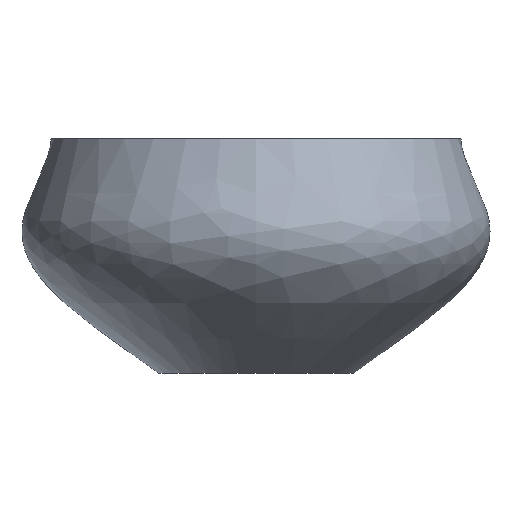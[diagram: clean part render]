
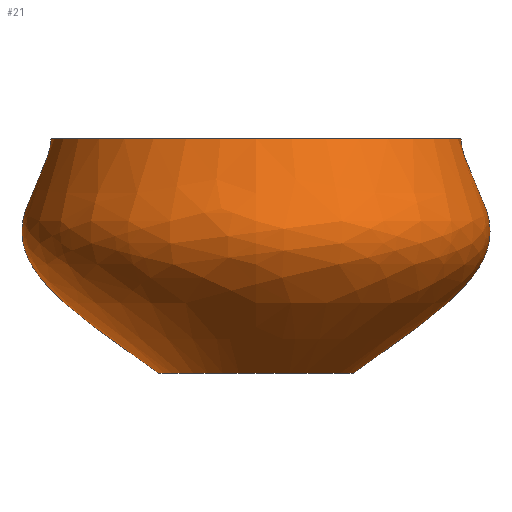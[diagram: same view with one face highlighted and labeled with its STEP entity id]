
A CAD part, front view. The second image highlights one B-rep face of the part: STEP entity #21.
In plain terms, the highlighted free-form (B-spline) face has degree [3, 2] with [5, 5] control points.
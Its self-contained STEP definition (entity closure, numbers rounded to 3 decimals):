
#21=ADVANCED_FACE('',(#28),#107,.T.);
#28=FACE_OUTER_BOUND('',#36,.T.);
#36=EDGE_LOOP('',(#57,#58,#59,#60));
#57=ORIENTED_EDGE('',*,*,#70,.T.);
#58=ORIENTED_EDGE('',*,*,#69,.F.);
#59=ORIENTED_EDGE('',*,*,#68,.F.);
#60=ORIENTED_EDGE('',*,*,#71,.F.);
#68=EDGE_CURVE('',#97,#98,#73,.T.);
#69=EDGE_CURVE('',#98,#100,#82,.T.);
#70=EDGE_CURVE('',#99,#100,#74,.T.);
#71=EDGE_CURVE('',#99,#97,#83,.T.);
#73=B_SPLINE_CURVE_WITH_KNOTS('',3,(#3995,#3996,#3997,#3998,#3999),
 .UNSPECIFIED.,.F.,.F.,(4,1,4),(0.,45.541,149.604),
 .UNSPECIFIED.);
#74=B_SPLINE_CURVE_WITH_KNOTS('',3,(#4003,#4004,#4005,#4006,#4007),
 .UNSPECIFIED.,.F.,.F.,(4,1,4),(0.,45.541,149.604),
 .UNSPECIFIED.);
#82=TRIMMED_CURVE($,#90,(#4001),(#4002),.T.,.CARTESIAN.);
#83=TRIMMED_CURVE($,#91,(#4009),(#4010),.T.,.CARTESIAN.);
#90=CIRCLE('',#204,50.);
#91=CIRCLE('',#205,105.);
#97=VERTEX_POINT('',#3877);
#98=VERTEX_POINT('',#3878);
#99=VERTEX_POINT('',#3879);
#100=VERTEX_POINT('',#3880);
#107=(
BOUNDED_SURFACE()
B_SPLINE_SURFACE(3,2,((#3848,#3849,#3850,#3851,#3852),(#3853,#3854,#3855,
#3856,#3857),(#3858,#3859,#3860,#3861,#3862),(#3863,#3864,#3865,#3866,#3867),
(#3868,#3869,#3870,#3871,#3872)),.UNSPECIFIED.,.F.,.F.,.F.)
B_SPLINE_SURFACE_WITH_KNOTS((4,1,4),(3,2,3),(0.,45.541,149.604),
(376.577,564.866,753.155),.UNSPECIFIED.)
GEOMETRIC_REPRESENTATION_ITEM()
RATIONAL_B_SPLINE_SURFACE(((1.,0.707,1.,0.707,1.),
(1.,0.707,1.,0.707,1.),(1.,0.707,1.,
0.707,1.),(1.,0.707,1.,0.707,1.),(1.,
0.707,1.,0.707,1.)))
REPRESENTATION_ITEM('')
SURFACE()
);
#204=AXIS2_PLACEMENT_3D($,#4000,#223,#224);
#205=AXIS2_PLACEMENT_3D($,#4008,#225,#226);
#223=DIRECTION('',(0.,0.,-1.));
#224=DIRECTION('',(1.,0.,0.));
#225=DIRECTION('',(0.,0.,1.));
#226=DIRECTION('',(-1.,0.,0.));
#3848=CARTESIAN_POINT('',(416.751,0.,120.));
#3849=CARTESIAN_POINT('',(416.751,-105.,120.));
#3850=CARTESIAN_POINT('',(521.751,-105.,120.));
#3851=CARTESIAN_POINT('',(626.751,-105.,120.));
#3852=CARTESIAN_POINT('',(626.751,0.,120.));
#3853=CARTESIAN_POINT('',(416.46,0.,107.158));
#3854=CARTESIAN_POINT('',(416.46,-105.291,107.158));
#3855=CARTESIAN_POINT('',(521.751,-105.291,107.158));
#3856=CARTESIAN_POINT('',(627.041,-105.291,107.158));
#3857=CARTESIAN_POINT('',(627.041,0.,107.158));
#3858=CARTESIAN_POINT('',(377.697,0.,56.356));
#3859=CARTESIAN_POINT('',(377.697,-144.054,56.356));
#3860=CARTESIAN_POINT('',(521.751,-144.054,56.356));
#3861=CARTESIAN_POINT('',(665.804,-144.054,56.356));
#3862=CARTESIAN_POINT('',(665.804,0.,56.356));
#3863=CARTESIAN_POINT('',(441.073,0.,23.393));
#3864=CARTESIAN_POINT('',(441.073,-80.678,23.393));
#3865=CARTESIAN_POINT('',(521.751,-80.678,23.393));
#3866=CARTESIAN_POINT('',(602.429,-80.678,23.393));
#3867=CARTESIAN_POINT('',(602.429,0.,23.393));
#3868=CARTESIAN_POINT('',(471.751,0.,0.));
#3869=CARTESIAN_POINT('',(471.751,-50.,0.));
#3870=CARTESIAN_POINT('',(521.751,-50.,0.));
#3871=CARTESIAN_POINT('',(571.751,-50.,0.));
#3872=CARTESIAN_POINT('',(571.751,0.,0.));
#3877=CARTESIAN_POINT('',(626.751,0.,120.));
#3878=CARTESIAN_POINT('',(571.751,0.,0.));
#3879=CARTESIAN_POINT('',(416.751,0.,120.));
#3880=CARTESIAN_POINT('',(471.751,0.,0.));
#3995=CARTESIAN_POINT('',(626.751,0.,120.));
#3996=CARTESIAN_POINT('',(627.041,0.,107.158));
#3997=CARTESIAN_POINT('',(665.804,0.,56.356));
#3998=CARTESIAN_POINT('',(602.429,0.,23.393));
#3999=CARTESIAN_POINT('',(571.751,0.,0.));
#4000=CARTESIAN_POINT('',(521.751,0.,0.));
#4001=CARTESIAN_POINT('',(571.751,0.,0.));
#4002=CARTESIAN_POINT('',(471.751,0.,0.));
#4003=CARTESIAN_POINT('',(416.751,0.,120.));
#4004=CARTESIAN_POINT('',(416.46,0.,107.158));
#4005=CARTESIAN_POINT('',(377.697,0.,56.356));
#4006=CARTESIAN_POINT('',(441.073,0.,23.393));
#4007=CARTESIAN_POINT('',(471.751,0.,0.));
#4008=CARTESIAN_POINT('',(521.751,0.,120.));
#4009=CARTESIAN_POINT('',(416.751,0.,120.));
#4010=CARTESIAN_POINT('',(626.751,0.,120.));
